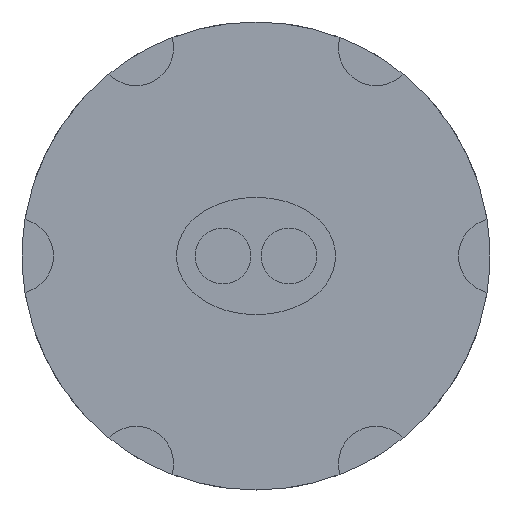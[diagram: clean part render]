
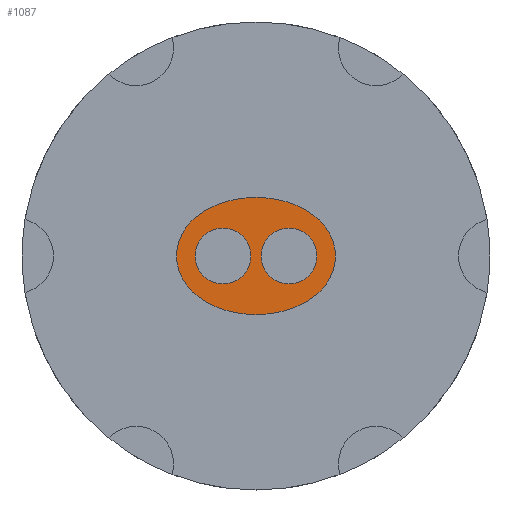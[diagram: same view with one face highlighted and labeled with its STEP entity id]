
A CAD part, left-side view. The second image highlights one B-rep face of the part: STEP entity #1087.
In plain terms, the highlighted planar face has unit normal (-1, 0, 0).
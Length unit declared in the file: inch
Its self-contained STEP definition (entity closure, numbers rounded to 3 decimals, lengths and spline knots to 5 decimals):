
#33 = B_SPLINE_CURVE_WITH_KNOTS ( 'NONE', 3,
 ( #763, #755, #756, #765, #766, #767, #768, #769, #770, #771, #772 ),
 .UNSPECIFIED., .F., .F.,
 ( 4, 1, 1, 1, 1, 1, 1, 1, 4 ),
 ( 0., 0.3927, 0.7854, 1.1781, 1.5708, 1.9635, 2.35619, 2.74889, 3.14159 ),
 .UNSPECIFIED. ) ;
#37 = B_SPLINE_CURVE_WITH_KNOTS ( 'NONE', 3,
 ( #774, #762, #779, #780, #781, #782, #783, #784, #785, #786, #787 ),
 .UNSPECIFIED., .F., .F.,
 ( 4, 1, 1, 1, 1, 1, 1, 1, 4 ),
 ( 3.14159, 3.53429, 3.92699, 4.31969, 4.71239, 5.10509, 5.49779, 5.89049, 6.28319 ),
 .UNSPECIFIED. ) ;
#60 = DIRECTION ( 'NONE',  ( -1., 0., 0. ) ) ;
#74 = CARTESIAN_POINT ( 'NONE',  ( -4.75988, 0.055, 0. ) ) ;
#86 = DIRECTION ( 'NONE',  ( 0., 1., 0. ) ) ;
#158 = CARTESIAN_POINT ( 'NONE',  ( -4.75988, 0.1015, 0. ) ) ;
#171 = CARTESIAN_POINT ( 'NONE',  ( -4.75988, 0.1325, 0. ) ) ;
#187 = CARTESIAN_POINT ( 'NONE',  ( -4.75988, -0.1015, 0. ) ) ;
#201 = CARTESIAN_POINT ( 'NONE',  ( -4.75988, -0.0085, 0. ) ) ;
#204 = CARTESIAN_POINT ( 'NONE',  ( -4.75988, -0.1325, 0. ) ) ;
#219 = CARTESIAN_POINT ( 'NONE',  ( -4.75988, 0.0085, 0. ) ) ;
#286 = CIRCLE ( 'NONE', #460, 0.0465 ) ;
#344 = EDGE_CURVE ( 'NONE', #2210, #1359, #1453, .T. ) ;
#355 = AXIS2_PLACEMENT_3D ( 'NONE', #674, #675, #676 ) ;
#391 = EDGE_CURVE ( 'NONE', #1359, #2210, #1430, .T. ) ;
#442 = EDGE_CURVE ( 'NONE', #2174, #2192, #1571, .T. ) ;
#460 = AXIS2_PLACEMENT_3D ( 'NONE', #880, #881, #882 ) ;
#502 = EDGE_CURVE ( 'NONE', #1388, #2195, #33, .T. ) ;
#505 = EDGE_CURVE ( 'NONE', #2195, #1388, #37, .T. ) ;
#527 = AXIS2_PLACEMENT_3D ( 'NONE', #74, #60, #86 ) ;
#534 = AXIS2_PLACEMENT_3D ( 'NONE', #621, #604, #655 ) ;
#561 = EDGE_CURVE ( 'NONE', #2192, #2174, #286, .T. ) ;
#604 = DIRECTION ( 'NONE',  ( -1., 0., 0. ) ) ;
#621 = CARTESIAN_POINT ( 'NONE',  ( -4.75988, 0.055, 0. ) ) ;
#655 = DIRECTION ( 'NONE',  ( 0., 1., 0. ) ) ;
#674 = CARTESIAN_POINT ( 'NONE',  ( -4.75988, -0.055, 0. ) ) ;
#675 = DIRECTION ( 'NONE',  ( -1., 0., 0. ) ) ;
#676 = DIRECTION ( 'NONE',  ( 0., 1., 0. ) ) ;
#755 = CARTESIAN_POINT ( 'NONE',  ( -4.75988, 0.1325, -0.01476 ) ) ;
#756 = CARTESIAN_POINT ( 'NONE',  ( -4.75988, 0.12307, -0.04429 ) ) ;
#762 = CARTESIAN_POINT ( 'NONE',  ( -4.75988, -0.1325, 0.01476 ) ) ;
#763 = CARTESIAN_POINT ( 'NONE',  ( -4.75988, 0.1325, 0. ) ) ;
#765 = CARTESIAN_POINT ( 'NONE',  ( -4.75988, 0.09044, -0.0751 ) ) ;
#766 = CARTESIAN_POINT ( 'NONE',  ( -4.75988, 0.04785, -0.09351 ) ) ;
#767 = CARTESIAN_POINT ( 'NONE',  ( -4.75988, 0., -0.09969 ) ) ;
#768 = CARTESIAN_POINT ( 'NONE',  ( -4.75988, -0.04785, -0.09351 ) ) ;
#769 = CARTESIAN_POINT ( 'NONE',  ( -4.75988, -0.09044, -0.0751 ) ) ;
#770 = CARTESIAN_POINT ( 'NONE',  ( -4.75988, -0.12307, -0.04429 ) ) ;
#771 = CARTESIAN_POINT ( 'NONE',  ( -4.75988, -0.1325, -0.01476 ) ) ;
#772 = CARTESIAN_POINT ( 'NONE',  ( -4.75988, -0.1325, 0. ) ) ;
#774 = CARTESIAN_POINT ( 'NONE',  ( -4.75988, -0.1325, 0. ) ) ;
#779 = CARTESIAN_POINT ( 'NONE',  ( -4.75988, -0.12307, 0.04429 ) ) ;
#780 = CARTESIAN_POINT ( 'NONE',  ( -4.75988, -0.09044, 0.0751 ) ) ;
#781 = CARTESIAN_POINT ( 'NONE',  ( -4.75988, -0.04785, 0.09351 ) ) ;
#782 = CARTESIAN_POINT ( 'NONE',  ( -4.75988, 0., 0.09969 ) ) ;
#783 = CARTESIAN_POINT ( 'NONE',  ( -4.75988, 0.04785, 0.09351 ) ) ;
#784 = CARTESIAN_POINT ( 'NONE',  ( -4.75988, 0.09044, 0.0751 ) ) ;
#785 = CARTESIAN_POINT ( 'NONE',  ( -4.75988, 0.12307, 0.04429 ) ) ;
#786 = CARTESIAN_POINT ( 'NONE',  ( -4.75988, 0.1325, 0.01476 ) ) ;
#787 = CARTESIAN_POINT ( 'NONE',  ( -4.75988, 0.1325, 0. ) ) ;
#880 = CARTESIAN_POINT ( 'NONE',  ( -4.75988, -0.055, 0. ) ) ;
#881 = DIRECTION ( 'NONE',  ( -1., 0., 0. ) ) ;
#882 = DIRECTION ( 'NONE',  ( 0., 1., 0. ) ) ;
#1087 = ADVANCED_FACE ( 'NONE', ( #1775, #1779, #1776 ), #1254, .F. ) ;
#1196 = DIRECTION ( 'NONE',  ( 0., -1., 0. ) ) ;
#1200 = DIRECTION ( 'NONE',  ( 1., 0., 0. ) ) ;
#1220 = CARTESIAN_POINT ( 'NONE',  ( -4.75988, -0.1325, 0. ) ) ;
#1254 = PLANE ( 'NONE',  #1621 ) ;
#1359 = VERTEX_POINT ( 'NONE', #158 ) ;
#1388 = VERTEX_POINT ( 'NONE', #171 ) ;
#1430 = CIRCLE ( 'NONE', #534, 0.0465 ) ;
#1453 = CIRCLE ( 'NONE', #527, 0.0465 ) ;
#1571 = CIRCLE ( 'NONE', #355, 0.0465 ) ;
#1621 = AXIS2_PLACEMENT_3D ( 'NONE', #1220, #1200, #1196 ) ;
#1775 = FACE_BOUND ( 'NONE', #1999, .T. ) ;
#1776 = FACE_BOUND ( 'NONE', #1992, .T. ) ;
#1779 = FACE_OUTER_BOUND ( 'NONE', #1967, .T. ) ;
#1967 = EDGE_LOOP ( 'NONE', ( #2082, #2090 ) ) ;
#1992 = EDGE_LOOP ( 'NONE', ( #2102, #2081 ) ) ;
#1999 = EDGE_LOOP ( 'NONE', ( #2084, #2083 ) ) ;
#2081 = ORIENTED_EDGE ( 'NONE', *, *, #391, .F. ) ;
#2082 = ORIENTED_EDGE ( 'NONE', *, *, #502, .T. ) ;
#2083 = ORIENTED_EDGE ( 'NONE', *, *, #561, .F. ) ;
#2084 = ORIENTED_EDGE ( 'NONE', *, *, #442, .F. ) ;
#2090 = ORIENTED_EDGE ( 'NONE', *, *, #505, .T. ) ;
#2102 = ORIENTED_EDGE ( 'NONE', *, *, #344, .F. ) ;
#2174 = VERTEX_POINT ( 'NONE', #187 ) ;
#2192 = VERTEX_POINT ( 'NONE', #201 ) ;
#2195 = VERTEX_POINT ( 'NONE', #204 ) ;
#2210 = VERTEX_POINT ( 'NONE', #219 ) ;
